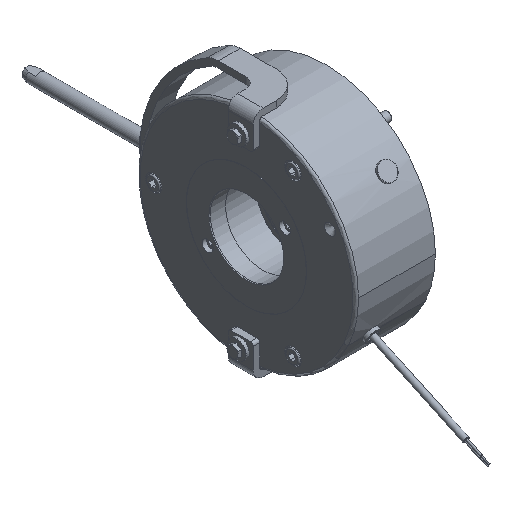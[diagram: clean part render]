
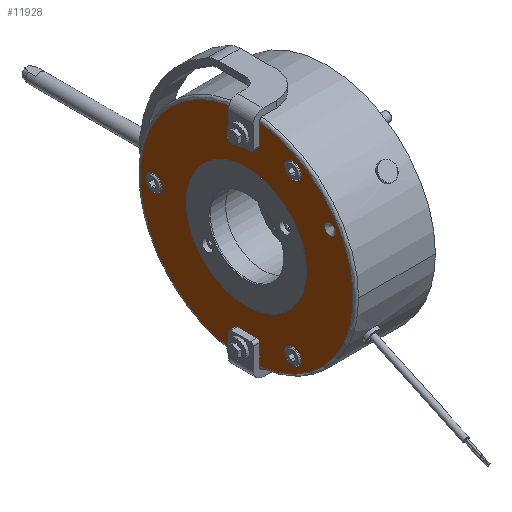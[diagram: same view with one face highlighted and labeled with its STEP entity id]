
A CAD part, isometric view. The second image highlights one B-rep face of the part: STEP entity #11928.
In plain terms, the highlighted planar face has unit normal (-1, 0, 0).
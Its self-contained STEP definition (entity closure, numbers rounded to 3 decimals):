
#538=FACE_BOUND('',#1816,.T.);
#539=FACE_BOUND('',#1817,.T.);
#540=FACE_BOUND('',#1818,.T.);
#541=FACE_BOUND('',#1819,.T.);
#542=FACE_BOUND('',#1820,.T.);
#690=PLANE('',#12979);
#1098=FACE_OUTER_BOUND('',#1815,.T.);
#1815=EDGE_LOOP('',(#8837,#8838,#8839,#8840,#8841,#8842,#8843,#8844,#8845,
#8846,#8847,#8848));
#1816=EDGE_LOOP('',(#8849,#8850));
#1817=EDGE_LOOP('',(#8851,#8852));
#1818=EDGE_LOOP('',(#8853,#8854));
#1819=EDGE_LOOP('',(#8855,#8856));
#1820=EDGE_LOOP('',(#8857,#8858));
#2473=LINE('',#19839,#3074);
#2476=LINE('',#19846,#3077);
#2482=LINE('',#19867,#3083);
#2486=LINE('',#19878,#3087);
#2504=LINE('',#19927,#3105);
#2513=LINE('',#19954,#3114);
#3074=VECTOR('',#15223,10.);
#3077=VECTOR('',#15232,10.);
#3083=VECTOR('',#15250,10.);
#3087=VECTOR('',#15262,10.);
#3105=VECTOR('',#15308,10.);
#3114=VECTOR('',#15337,10.);
#3703=CIRCLE('',#12860,2.5);
#3704=CIRCLE('',#12863,2.5);
#3707=CIRCLE('',#12868,2.5);
#3709=CIRCLE('',#12872,2.5);
#3764=CIRCLE('',#12980,97.5);
#3765=CIRCLE('',#12981,97.5);
#3766=CIRCLE('',#12982,7.5);
#3767=CIRCLE('',#12983,7.5);
#3768=CIRCLE('',#12984,7.5);
#3769=CIRCLE('',#12985,7.5);
#3770=CIRCLE('',#12986,7.5);
#3771=CIRCLE('',#12987,7.5);
#3772=CIRCLE('',#12988,55.);
#3773=CIRCLE('',#12989,55.);
#3774=CIRCLE('',#12990,5.);
#3775=CIRCLE('',#12991,5.);
#4727=VERTEX_POINT('',#19786);
#4730=VERTEX_POINT('',#19793);
#4734=VERTEX_POINT('',#19804);
#4737=VERTEX_POINT('',#19811);
#4746=VERTEX_POINT('',#19832);
#4747=VERTEX_POINT('',#19833);
#4748=VERTEX_POINT('',#19838);
#4749=VERTEX_POINT('',#19842);
#4754=VERTEX_POINT('',#19857);
#4755=VERTEX_POINT('',#19858);
#4758=VERTEX_POINT('',#19866);
#4760=VERTEX_POINT('',#19872);
#4837=VERTEX_POINT('',#20156);
#4838=VERTEX_POINT('',#20157);
#4839=VERTEX_POINT('',#20160);
#4840=VERTEX_POINT('',#20161);
#4841=VERTEX_POINT('',#20164);
#4842=VERTEX_POINT('',#20165);
#4843=VERTEX_POINT('',#20168);
#4844=VERTEX_POINT('',#20169);
#4845=VERTEX_POINT('',#20172);
#4846=VERTEX_POINT('',#20173);
#6140=EDGE_CURVE('',#4746,#4747,#3703,.T.);
#6143=EDGE_CURVE('',#4748,#4746,#2473,.T.);
#6145=EDGE_CURVE('',#4749,#4748,#3704,.T.);
#6147=EDGE_CURVE('',#4730,#4749,#2476,.T.);
#6153=EDGE_CURVE('',#4754,#4755,#3707,.T.);
#6157=EDGE_CURVE('',#4758,#4754,#2482,.T.);
#6160=EDGE_CURVE('',#4760,#4758,#3709,.T.);
#6163=EDGE_CURVE('',#4737,#4760,#2486,.T.);
#6189=EDGE_CURVE('',#4755,#4734,#2504,.T.);
#6203=EDGE_CURVE('',#4747,#4727,#2513,.T.);
#6288=EDGE_CURVE('',#4737,#4727,#3764,.T.);
#6289=EDGE_CURVE('',#4730,#4734,#3765,.T.);
#6290=EDGE_CURVE('',#4837,#4838,#3766,.T.);
#6291=EDGE_CURVE('',#4838,#4837,#3767,.T.);
#6292=EDGE_CURVE('',#4839,#4840,#3768,.T.);
#6293=EDGE_CURVE('',#4840,#4839,#3769,.T.);
#6294=EDGE_CURVE('',#4841,#4842,#3770,.T.);
#6295=EDGE_CURVE('',#4842,#4841,#3771,.T.);
#6296=EDGE_CURVE('',#4843,#4844,#3772,.T.);
#6297=EDGE_CURVE('',#4844,#4843,#3773,.T.);
#6298=EDGE_CURVE('',#4845,#4846,#3774,.T.);
#6299=EDGE_CURVE('',#4846,#4845,#3775,.T.);
#8837=ORIENTED_EDGE('',*,*,#6147,.T.);
#8838=ORIENTED_EDGE('',*,*,#6145,.T.);
#8839=ORIENTED_EDGE('',*,*,#6143,.T.);
#8840=ORIENTED_EDGE('',*,*,#6140,.T.);
#8841=ORIENTED_EDGE('',*,*,#6203,.T.);
#8842=ORIENTED_EDGE('',*,*,#6288,.F.);
#8843=ORIENTED_EDGE('',*,*,#6163,.T.);
#8844=ORIENTED_EDGE('',*,*,#6160,.T.);
#8845=ORIENTED_EDGE('',*,*,#6157,.T.);
#8846=ORIENTED_EDGE('',*,*,#6153,.T.);
#8847=ORIENTED_EDGE('',*,*,#6189,.T.);
#8848=ORIENTED_EDGE('',*,*,#6289,.F.);
#8849=ORIENTED_EDGE('',*,*,#6290,.T.);
#8850=ORIENTED_EDGE('',*,*,#6291,.T.);
#8851=ORIENTED_EDGE('',*,*,#6292,.T.);
#8852=ORIENTED_EDGE('',*,*,#6293,.T.);
#8853=ORIENTED_EDGE('',*,*,#6294,.T.);
#8854=ORIENTED_EDGE('',*,*,#6295,.T.);
#8855=ORIENTED_EDGE('',*,*,#6296,.T.);
#8856=ORIENTED_EDGE('',*,*,#6297,.T.);
#8857=ORIENTED_EDGE('',*,*,#6298,.T.);
#8858=ORIENTED_EDGE('',*,*,#6299,.T.);
#11928=ADVANCED_FACE('',(#1098,#538,#539,#540,#541,#542),#690,.T.);
#12860=AXIS2_PLACEMENT_3D('',#19834,#15217,#15218);
#12863=AXIS2_PLACEMENT_3D('',#19843,#15227,#15228);
#12868=AXIS2_PLACEMENT_3D('',#19859,#15242,#15243);
#12872=AXIS2_PLACEMENT_3D('',#19873,#15255,#15256);
#12979=AXIS2_PLACEMENT_3D('',#20153,#15530,#15531);
#12980=AXIS2_PLACEMENT_3D('',#20154,#15532,#15533);
#12981=AXIS2_PLACEMENT_3D('',#20155,#15534,#15535);
#12982=AXIS2_PLACEMENT_3D('',#20158,#15536,#15537);
#12983=AXIS2_PLACEMENT_3D('',#20159,#15538,#15539);
#12984=AXIS2_PLACEMENT_3D('',#20162,#15540,#15541);
#12985=AXIS2_PLACEMENT_3D('',#20163,#15542,#15543);
#12986=AXIS2_PLACEMENT_3D('',#20166,#15544,#15545);
#12987=AXIS2_PLACEMENT_3D('',#20167,#15546,#15547);
#12988=AXIS2_PLACEMENT_3D('',#20170,#15548,#15549);
#12989=AXIS2_PLACEMENT_3D('',#20171,#15550,#15551);
#12990=AXIS2_PLACEMENT_3D('',#20174,#15552,#15553);
#12991=AXIS2_PLACEMENT_3D('',#20175,#15554,#15555);
#15217=DIRECTION('center_axis',(1.,0.,0.));
#15218=DIRECTION('ref_axis',(0.,0.707,-0.707));
#15223=DIRECTION('',(0.,1.,0.));
#15227=DIRECTION('center_axis',(1.,0.,0.));
#15228=DIRECTION('ref_axis',(0.,-0.707,-0.707));
#15232=DIRECTION('',(0.,0.,-1.));
#15242=DIRECTION('center_axis',(1.,0.,0.));
#15243=DIRECTION('ref_axis',(0.,-0.707,0.707));
#15250=DIRECTION('',(0.,-1.,0.));
#15255=DIRECTION('center_axis',(1.,0.,0.));
#15256=DIRECTION('ref_axis',(0.,0.707,0.707));
#15262=DIRECTION('',(0.,0.,1.));
#15308=DIRECTION('',(0.,0.,-1.));
#15337=DIRECTION('',(0.,0.,1.));
#15530=DIRECTION('center_axis',(-1.,0.,0.));
#15531=DIRECTION('ref_axis',(0.,0.,1.));
#15532=DIRECTION('center_axis',(1.,0.,0.));
#15533=DIRECTION('ref_axis',(0.,-1.,0.));
#15534=DIRECTION('center_axis',(1.,0.,0.));
#15535=DIRECTION('ref_axis',(0.,-1.,0.));
#15536=DIRECTION('center_axis',(1.,0.,0.));
#15537=DIRECTION('ref_axis',(0.,0.866,-0.5));
#15538=DIRECTION('center_axis',(1.,0.,0.));
#15539=DIRECTION('ref_axis',(0.,0.866,-0.5));
#15540=DIRECTION('center_axis',(1.,0.,0.));
#15541=DIRECTION('ref_axis',(0.,-0.866,-0.5));
#15542=DIRECTION('center_axis',(1.,0.,0.));
#15543=DIRECTION('ref_axis',(0.,-0.866,-0.5));
#15544=DIRECTION('center_axis',(1.,0.,0.));
#15545=DIRECTION('ref_axis',(0.,0.,1.));
#15546=DIRECTION('center_axis',(1.,0.,0.));
#15547=DIRECTION('ref_axis',(0.,0.,1.));
#15548=DIRECTION('center_axis',(1.,0.,0.));
#15549=DIRECTION('ref_axis',(0.,1.,0.));
#15550=DIRECTION('center_axis',(1.,0.,0.));
#15551=DIRECTION('ref_axis',(0.,1.,0.));
#15552=DIRECTION('center_axis',(1.,0.,0.));
#15553=DIRECTION('ref_axis',(0.,0.,1.));
#15554=DIRECTION('center_axis',(1.,0.,0.));
#15555=DIRECTION('ref_axis',(0.,0.,1.));
#19786=CARTESIAN_POINT('',(-72.8,11.,96.877));
#19793=CARTESIAN_POINT('',(-72.8,-12.,96.759));
#19804=CARTESIAN_POINT('',(-72.8,-12.,-96.759));
#19811=CARTESIAN_POINT('',(-72.8,11.,-96.877));
#19832=CARTESIAN_POINT('',(-72.8,8.5,75.5));
#19833=CARTESIAN_POINT('',(-72.8,11.,78.));
#19834=CARTESIAN_POINT('Origin',(-72.8,8.5,78.));
#19838=CARTESIAN_POINT('',(-72.8,-9.5,75.5));
#19839=CARTESIAN_POINT('',(-72.8,44.25,75.5));
#19842=CARTESIAN_POINT('',(-72.8,-12.,78.));
#19843=CARTESIAN_POINT('Origin',(-72.8,-9.5,78.));
#19846=CARTESIAN_POINT('',(-72.8,-12.,53.25));
#19857=CARTESIAN_POINT('',(-72.8,-9.5,-75.5));
#19858=CARTESIAN_POINT('',(-72.8,-12.,-78.));
#19859=CARTESIAN_POINT('Origin',(-72.8,-9.5,-78.));
#19866=CARTESIAN_POINT('',(-72.8,8.5,-75.5));
#19867=CARTESIAN_POINT('',(-72.8,32.75,-75.5));
#19872=CARTESIAN_POINT('',(-72.8,11.,-78.));
#19873=CARTESIAN_POINT('Origin',(-72.8,8.5,-78.));
#19878=CARTESIAN_POINT('',(-72.8,11.,-53.25));
#19927=CARTESIAN_POINT('',(-72.8,-12.,-50.25));
#19954=CARTESIAN_POINT('',(-72.8,11.,50.25));
#20153=CARTESIAN_POINT('Origin',(-72.8,77.5,0.));
#20154=CARTESIAN_POINT('Origin',(-72.8,0.,0.));
#20155=CARTESIAN_POINT('Origin',(-72.8,0.,0.));
#20156=CARTESIAN_POINT('',(-72.8,-36.005,-77.362));
#20157=CARTESIAN_POINT('',(-72.8,-48.995,-69.862));
#20158=CARTESIAN_POINT('Origin',(-72.8,-42.5,-73.612));
#20159=CARTESIAN_POINT('Origin',(-72.8,-42.5,-73.612));
#20160=CARTESIAN_POINT('',(-72.8,-48.995,69.862));
#20161=CARTESIAN_POINT('',(-72.8,-36.005,77.362));
#20162=CARTESIAN_POINT('Origin',(-72.8,-42.5,73.612));
#20163=CARTESIAN_POINT('Origin',(-72.8,-42.5,73.612));
#20164=CARTESIAN_POINT('',(-72.8,85.,7.5));
#20165=CARTESIAN_POINT('',(-72.8,85.,-7.5));
#20166=CARTESIAN_POINT('Origin',(-72.8,85.,0.));
#20167=CARTESIAN_POINT('Origin',(-72.8,85.,0.));
#20168=CARTESIAN_POINT('',(-72.8,55.,0.));
#20169=CARTESIAN_POINT('',(-72.8,-55.,0.));
#20170=CARTESIAN_POINT('Origin',(-72.8,0.,0.));
#20171=CARTESIAN_POINT('Origin',(-72.8,0.,0.));
#20172=CARTESIAN_POINT('',(-72.8,-76.21,49.));
#20173=CARTESIAN_POINT('',(-72.8,-76.21,39.));
#20174=CARTESIAN_POINT('Origin',(-72.8,-76.21,44.));
#20175=CARTESIAN_POINT('Origin',(-72.8,-76.21,44.));
